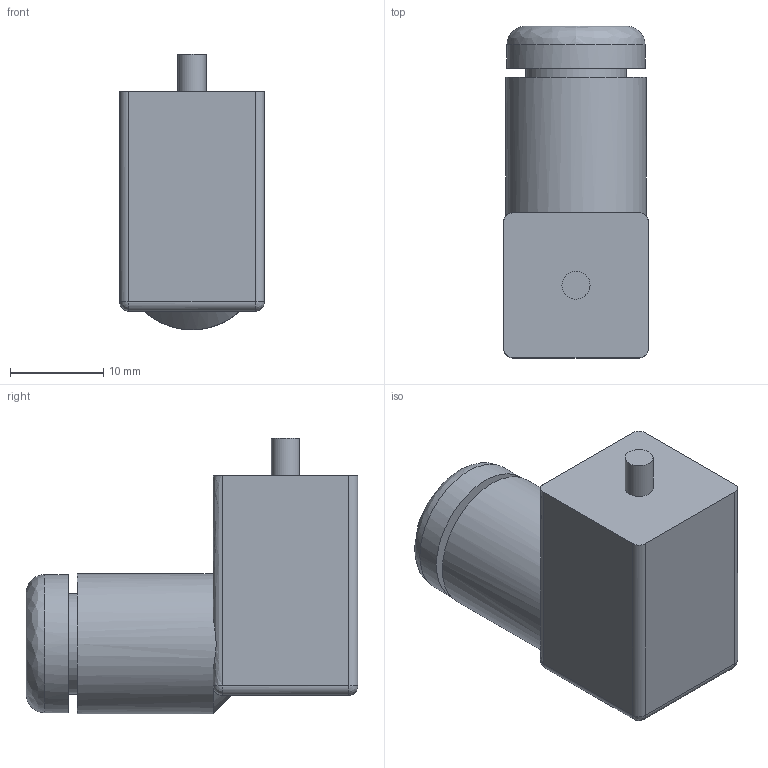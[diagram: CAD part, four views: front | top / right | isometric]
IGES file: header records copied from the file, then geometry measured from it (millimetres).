
Global section: file name: 315_1#_0##; native system: Autodesk Inventor 2014; preprocessor: unknown; organization: Pneumax S.p.A.; date: 20161005.081854; units: millimetre
Bounding box: 15.5 x 35.5 x 29.48 mm (x, y, z)
Volume: 8085.1 mm3; surface area: 3540 mm2
Topology: 1 solids, 1 shells, 51 faces, 127 edges, 81 vertices
Faces by surface type: bspline 51
